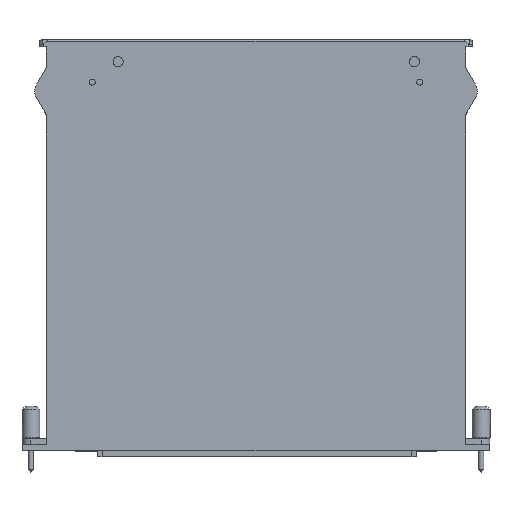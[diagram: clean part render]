
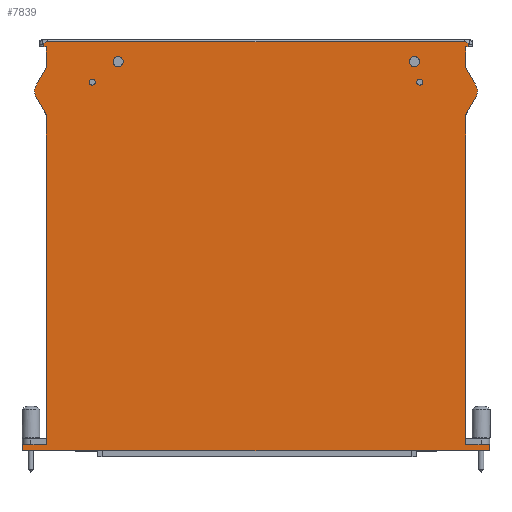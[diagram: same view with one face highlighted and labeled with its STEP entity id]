
A CAD part, front view. The second image highlights one B-rep face of the part: STEP entity #7839.
In plain terms, the highlighted planar face has unit normal (0, -1, 0).
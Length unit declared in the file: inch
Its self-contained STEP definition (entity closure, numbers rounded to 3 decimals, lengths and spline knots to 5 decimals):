
#175=CARTESIAN_POINT('',(-3.08,0.,-0.4325));
#176=DIRECTION('',(0.,-1.,0.));
#177=DIRECTION('',(-0.866,0.,0.5));
#178=AXIS2_PLACEMENT_3D('',#175,#176,#177);
#445=DIRECTION('',(0.,0.,1.));
#446=VECTOR('',#445,0.04);
#447=CARTESIAN_POINT('',(3.1,0.,0.2175));
#448=LINE('',#447,#446);
#458=CARTESIAN_POINT('',(-3.1,0.,0.2575));
#459=CARTESIAN_POINT('',(-3.08278,0.,0.27381));
#460=CARTESIAN_POINT('',(-3.06376,0.,0.29452));
#461=CARTESIAN_POINT('',(-3.03941,0.,0.29452));
#463=CARTESIAN_POINT('',(3.1,0.,0.2575));
#464=CARTESIAN_POINT('',(3.08278,0.,0.27381));
#465=CARTESIAN_POINT('',(3.06376,0.,0.29452));
#466=CARTESIAN_POINT('',(3.03941,0.,0.29452));
#468=DIRECTION('',(-1.,0.,0.));
#469=VECTOR('',#468,0.04);
#470=CARTESIAN_POINT('',(3.1,0.,0.2175));
#471=LINE('',#470,#469);
#472=DIRECTION('',(0.,0.,-1.));
#473=VECTOR('',#472,0.30536);
#474=CARTESIAN_POINT('',(3.06,0.,0.2175));
#475=LINE('',#474,#473);
#476=DIRECTION('',(0.5,0.,-0.866));
#477=VECTOR('',#476,0.30847);
#478=CARTESIAN_POINT('',(3.06,0.,-0.08786));
#479=LINE('',#478,#477);
#480=DIRECTION('',(-0.5,0.,-0.866));
#481=VECTOR('',#480,0.30847);
#482=CARTESIAN_POINT('',(3.21423,0.,-0.51));
#483=LINE('',#482,#481);
#484=DIRECTION('',(0.,0.,-1.));
#485=VECTOR('',#484,4.81563);
#486=CARTESIAN_POINT('',(3.06,0.,-0.77714));
#487=LINE('',#486,#485);
#488=DIRECTION('',(1.,0.,0.));
#489=VECTOR('',#488,0.346);
#490=CARTESIAN_POINT('',(3.06,0.,-5.59277));
#491=LINE('',#490,#489);
#492=DIRECTION('',(-1.,0.,0.));
#493=VECTOR('',#492,0.346);
#494=CARTESIAN_POINT('',(-3.06,0.,-5.59277));
#495=LINE('',#494,#493);
#496=DIRECTION('',(0.,0.,1.));
#497=VECTOR('',#496,4.81563);
#498=CARTESIAN_POINT('',(-3.06,0.,-5.59277));
#499=LINE('',#498,#497);
#500=DIRECTION('',(-0.5,0.,0.866));
#501=VECTOR('',#500,0.30847);
#502=CARTESIAN_POINT('',(-3.06,0.,-0.77714));
#503=LINE('',#502,#501);
#504=DIRECTION('',(0.5,0.,0.866));
#505=VECTOR('',#504,0.30847);
#506=CARTESIAN_POINT('',(-3.21423,0.,-0.355));
#507=LINE('',#506,#505);
#508=DIRECTION('',(0.,0.,1.));
#509=VECTOR('',#508,0.30536);
#510=CARTESIAN_POINT('',(-3.06,0.,-0.08786));
#511=LINE('',#510,#509);
#512=DIRECTION('',(1.,0.,0.));
#513=VECTOR('',#512,0.04);
#514=CARTESIAN_POINT('',(-3.1,0.,0.2175));
#515=LINE('',#514,#513);
#516=CARTESIAN_POINT('',(-2.0125,0.,0.));
#517=DIRECTION('',(0.,-1.,0.));
#518=DIRECTION('',(1.,0.,0.));
#519=AXIS2_PLACEMENT_3D('',#516,#517,#518);
#521=CARTESIAN_POINT('',(-2.0125,0.,0.));
#522=DIRECTION('',(0.,-1.,0.));
#523=DIRECTION('',(-1.,0.,0.));
#524=AXIS2_PLACEMENT_3D('',#521,#522,#523);
#526=CARTESIAN_POINT('',(2.3125,0.,0.));
#527=DIRECTION('',(0.,-1.,0.));
#528=DIRECTION('',(1.,0.,0.));
#529=AXIS2_PLACEMENT_3D('',#526,#527,#528);
#531=CARTESIAN_POINT('',(2.3125,0.,0.));
#532=DIRECTION('',(0.,-1.,0.));
#533=DIRECTION('',(-1.,0.,0.));
#534=AXIS2_PLACEMENT_3D('',#531,#532,#533);
#536=CARTESIAN_POINT('',(-2.39,0.,-0.2975));
#537=DIRECTION('',(0.,1.,0.));
#538=DIRECTION('',(-1.,0.,0.));
#539=AXIS2_PLACEMENT_3D('',#536,#537,#538);
#541=CARTESIAN_POINT('',(-2.39,0.,-0.2975));
#542=DIRECTION('',(0.,1.,0.));
#543=DIRECTION('',(1.,0.,0.));
#544=AXIS2_PLACEMENT_3D('',#541,#542,#543);
#546=CARTESIAN_POINT('',(2.39,0.,-0.2975));
#547=DIRECTION('',(0.,1.,0.));
#548=DIRECTION('',(-1.,0.,0.));
#549=AXIS2_PLACEMENT_3D('',#546,#547,#548);
#551=CARTESIAN_POINT('',(2.39,0.,-0.2975));
#552=DIRECTION('',(0.,1.,0.));
#553=DIRECTION('',(1.,0.,0.));
#554=AXIS2_PLACEMENT_3D('',#551,#552,#553);
#556=DIRECTION('',(0.,0.,-1.));
#557=VECTOR('',#556,0.04);
#558=CARTESIAN_POINT('',(-3.1,0.,0.2575));
#559=LINE('',#558,#557);
#1076=DIRECTION('',(1.,0.,0.));
#1077=VECTOR('',#1076,6.812);
#1078=CARTESIAN_POINT('',(-3.406,0.,-5.6825));
#1079=LINE('',#1078,#1077);
#1552=DIRECTION('',(0.,0.,-1.));
#1553=VECTOR('',#1552,0.08973);
#1554=CARTESIAN_POINT('',(3.406,0.,-5.59277));
#1555=LINE('',#1554,#1553);
#1594=CARTESIAN_POINT('',(3.08,0.,-0.4325));
#1595=DIRECTION('',(0.,-1.,0.));
#1596=DIRECTION('',(0.866,0.,-0.5));
#1597=AXIS2_PLACEMENT_3D('',#1594,#1595,#1596);
#4445=DIRECTION('',(0.,0.,-1.));
#4446=VECTOR('',#4445,0.08973);
#4447=CARTESIAN_POINT('',(-3.406,0.,-5.59277));
#4448=LINE('',#4447,#4446);
#5443=DIRECTION('',(1.,0.,0.));
#5444=VECTOR('',#5443,6.07883);
#5445=CARTESIAN_POINT('',(-3.03941,0.,0.29452));
#5446=LINE('',#5445,#5444);
#5509=CARTESIAN_POINT('',(-3.1,0.,0.2575));
#5955=CARTESIAN_POINT('',(3.406,0.,-5.6825));
#5956=VERTEX_POINT('',#5955);
#5969=CARTESIAN_POINT('',(-3.406,0.,-5.6825));
#5970=VERTEX_POINT('',#5969);
#5987=CARTESIAN_POINT('',(-1.939,0.,0.));
#5988=CARTESIAN_POINT('',(-2.086,0.,0.));
#5989=VERTEX_POINT('',#5987);
#5990=VERTEX_POINT('',#5988);
#5995=CARTESIAN_POINT('',(2.386,0.,0.));
#5996=CARTESIAN_POINT('',(2.239,0.,0.));
#5997=VERTEX_POINT('',#5995);
#5998=VERTEX_POINT('',#5996);
#6185=CARTESIAN_POINT('',(-3.1,0.,0.2175));
#6187=VERTEX_POINT('',#6185);
#6190=CARTESIAN_POINT('',(3.1,0.,0.2175));
#6192=VERTEX_POINT('',#6190);
#6214=CARTESIAN_POINT('',(3.1,0.,0.2575));
#6216=VERTEX_POINT('',#6214);
#6218=CARTESIAN_POINT('',(3.03941,0.,0.29452));
#6220=VERTEX_POINT('',#6218);
#6223=VERTEX_POINT('',#5509);
#6226=CARTESIAN_POINT('',(-3.03941,0.,0.29452));
#6228=VERTEX_POINT('',#6226);
#6307=CARTESIAN_POINT('',(3.406,0.,-5.59277));
#6308=VERTEX_POINT('',#6307);
#6321=CARTESIAN_POINT('',(-3.406,0.,-5.59277));
#6322=VERTEX_POINT('',#6321);
#6343=CARTESIAN_POINT('',(-2.435,0.,-0.2975));
#6344=CARTESIAN_POINT('',(-2.345,0.,-0.2975));
#6345=VERTEX_POINT('',#6343);
#6346=VERTEX_POINT('',#6344);
#6347=CARTESIAN_POINT('',(2.345,0.,-0.2975));
#6348=CARTESIAN_POINT('',(2.435,0.,-0.2975));
#6349=VERTEX_POINT('',#6347);
#6350=VERTEX_POINT('',#6348);
#6443=CARTESIAN_POINT('',(3.21423,0.,-0.51));
#6444=CARTESIAN_POINT('',(3.21423,0.,-0.355));
#6445=VERTEX_POINT('',#6443);
#6446=VERTEX_POINT('',#6444);
#6447=CARTESIAN_POINT('',(-3.21423,0.,-0.355));
#6448=CARTESIAN_POINT('',(-3.21423,0.,-0.51));
#6449=VERTEX_POINT('',#6447);
#6450=VERTEX_POINT('',#6448);
#6451=CARTESIAN_POINT('',(-3.06,0.,-0.08786));
#6452=CARTESIAN_POINT('',(-3.06,0.,0.2175));
#6453=VERTEX_POINT('',#6451);
#6454=VERTEX_POINT('',#6452);
#6455=CARTESIAN_POINT('',(-3.06,0.,-0.77714));
#6456=VERTEX_POINT('',#6455);
#6457=CARTESIAN_POINT('',(3.06,0.,0.2175));
#6458=CARTESIAN_POINT('',(3.06,0.,-0.08786));
#6459=VERTEX_POINT('',#6457);
#6460=VERTEX_POINT('',#6458);
#6461=CARTESIAN_POINT('',(3.06,0.,-0.77714));
#6462=VERTEX_POINT('',#6461);
#6475=CARTESIAN_POINT('',(3.06,0.,-5.59277));
#6476=VERTEX_POINT('',#6475);
#6481=CARTESIAN_POINT('',(-3.06,0.,-5.59277));
#6482=VERTEX_POINT('',#6481);
#7771=CARTESIAN_POINT('',(3.06,0.,-5.6825));
#7772=DIRECTION('',(0.,1.,0.));
#7773=DIRECTION('',(-1.,0.,0.));
#7774=AXIS2_PLACEMENT_3D('',#7771,#7772,#7773);
#7775=PLANE('',#7774);
#7777=ORIENTED_EDGE('',*,*,#7776,.F.);
#7779=ORIENTED_EDGE('',*,*,#7778,.T.);
#7781=ORIENTED_EDGE('',*,*,#7780,.T.);
#7783=ORIENTED_EDGE('',*,*,#7782,.F.);
#7784=ORIENTED_EDGE('',*,*,#7762,.F.);
#7785=ORIENTED_EDGE('',*,*,#7752,.T.);
#7787=ORIENTED_EDGE('',*,*,#7786,.T.);
#7789=ORIENTED_EDGE('',*,*,#7788,.T.);
#7791=ORIENTED_EDGE('',*,*,#7790,.F.);
#7793=ORIENTED_EDGE('',*,*,#7792,.T.);
#7795=ORIENTED_EDGE('',*,*,#7794,.T.);
#7797=ORIENTED_EDGE('',*,*,#7796,.T.);
#7799=ORIENTED_EDGE('',*,*,#7798,.T.);
#7801=ORIENTED_EDGE('',*,*,#7800,.F.);
#7803=ORIENTED_EDGE('',*,*,#7802,.F.);
#7805=ORIENTED_EDGE('',*,*,#7804,.F.);
#7806=ORIENTED_EDGE('',*,*,#7481,.T.);
#7807=ORIENTED_EDGE('',*,*,#7505,.T.);
#7808=ORIENTED_EDGE('',*,*,#7519,.F.);
#7809=ORIENTED_EDGE('',*,*,#7533,.T.);
#7810=ORIENTED_EDGE('',*,*,#7550,.T.);
#7812=ORIENTED_EDGE('',*,*,#7811,.F.);
#7813=EDGE_LOOP('',(#7777,#7779,#7781,#7783,#7784,#7785,#7787,#7789,#7791,#7793,
#7795,#7797,#7799,#7801,#7803,#7805,#7806,#7807,#7808,#7809,#7810,#7812));
#7814=FACE_OUTER_BOUND('',#7813,.F.);
#7816=ORIENTED_EDGE('',*,*,#7815,.T.);
#7818=ORIENTED_EDGE('',*,*,#7817,.T.);
#7819=EDGE_LOOP('',(#7816,#7818));
#7820=FACE_BOUND('',#7819,.F.);
#7822=ORIENTED_EDGE('',*,*,#7821,.T.);
#7824=ORIENTED_EDGE('',*,*,#7823,.T.);
#7825=EDGE_LOOP('',(#7822,#7824));
#7826=FACE_BOUND('',#7825,.F.);
#7828=ORIENTED_EDGE('',*,*,#7827,.F.);
#7830=ORIENTED_EDGE('',*,*,#7829,.F.);
#7831=EDGE_LOOP('',(#7828,#7830));
#7832=FACE_BOUND('',#7831,.F.);
#7834=ORIENTED_EDGE('',*,*,#7833,.F.);
#7836=ORIENTED_EDGE('',*,*,#7835,.F.);
#7837=EDGE_LOOP('',(#7834,#7836));
#7838=FACE_BOUND('',#7837,.F.);
#7839=ADVANCED_FACE('',(#7814,#7820,#7826,#7832,#7838),#7775,.F.);
#179=CIRCLE('',#178,0.155);
#462=B_SPLINE_CURVE_WITH_KNOTS('',3,(#458,#459,#460,#461),.UNSPECIFIED.,.F.,.F.,
(4,4),(0.,1.),.UNSPECIFIED.);
#467=B_SPLINE_CURVE_WITH_KNOTS('',3,(#463,#464,#465,#466),.UNSPECIFIED.,.F.,.F.,
(4,4),(0.,1.),.UNSPECIFIED.);
#520=CIRCLE('',#519,0.0735);
#525=CIRCLE('',#524,0.0735);
#530=CIRCLE('',#529,0.0735);
#535=CIRCLE('',#534,0.0735);
#540=CIRCLE('',#539,0.045);
#545=CIRCLE('',#544,0.045);
#550=CIRCLE('',#549,0.045);
#555=CIRCLE('',#554,0.045);
#1598=CIRCLE('',#1597,0.155);
#7481=EDGE_CURVE('',#6482,#6456,#499,.T.);
#7505=EDGE_CURVE('',#6456,#6450,#503,.T.);
#7519=EDGE_CURVE('',#6449,#6450,#179,.T.);
#7533=EDGE_CURVE('',#6449,#6453,#507,.T.);
#7550=EDGE_CURVE('',#6453,#6454,#511,.T.);
#7752=EDGE_CURVE('',#6192,#6459,#471,.T.);
#7762=EDGE_CURVE('',#6192,#6216,#448,.T.);
#7776=EDGE_CURVE('',#6223,#6187,#559,.T.);
#7778=EDGE_CURVE('',#6223,#6228,#462,.T.);
#7780=EDGE_CURVE('',#6228,#6220,#5446,.T.);
#7782=EDGE_CURVE('',#6216,#6220,#467,.T.);
#7786=EDGE_CURVE('',#6459,#6460,#475,.T.);
#7788=EDGE_CURVE('',#6460,#6446,#479,.T.);
#7790=EDGE_CURVE('',#6445,#6446,#1598,.T.);
#7792=EDGE_CURVE('',#6445,#6462,#483,.T.);
#7794=EDGE_CURVE('',#6462,#6476,#487,.T.);
#7796=EDGE_CURVE('',#6476,#6308,#491,.T.);
#7798=EDGE_CURVE('',#6308,#5956,#1555,.T.);
#7800=EDGE_CURVE('',#5970,#5956,#1079,.T.);
#7802=EDGE_CURVE('',#6322,#5970,#4448,.T.);
#7804=EDGE_CURVE('',#6482,#6322,#495,.T.);
#7811=EDGE_CURVE('',#6187,#6454,#515,.T.);
#7815=EDGE_CURVE('',#5989,#5990,#520,.T.);
#7817=EDGE_CURVE('',#5990,#5989,#525,.T.);
#7821=EDGE_CURVE('',#5997,#5998,#530,.T.);
#7823=EDGE_CURVE('',#5998,#5997,#535,.T.);
#7827=EDGE_CURVE('',#6345,#6346,#540,.T.);
#7829=EDGE_CURVE('',#6346,#6345,#545,.T.);
#7833=EDGE_CURVE('',#6349,#6350,#550,.T.);
#7835=EDGE_CURVE('',#6350,#6349,#555,.T.);
